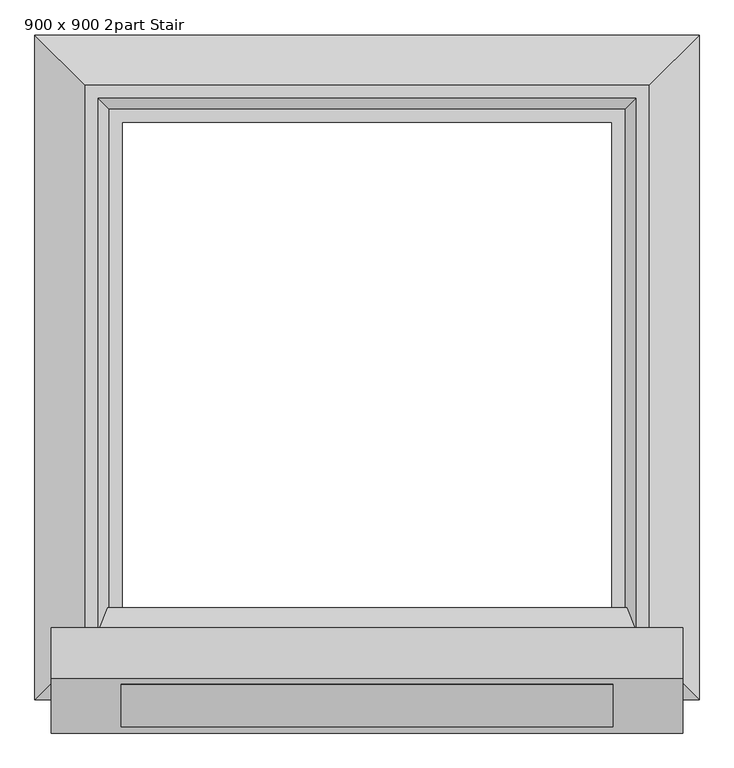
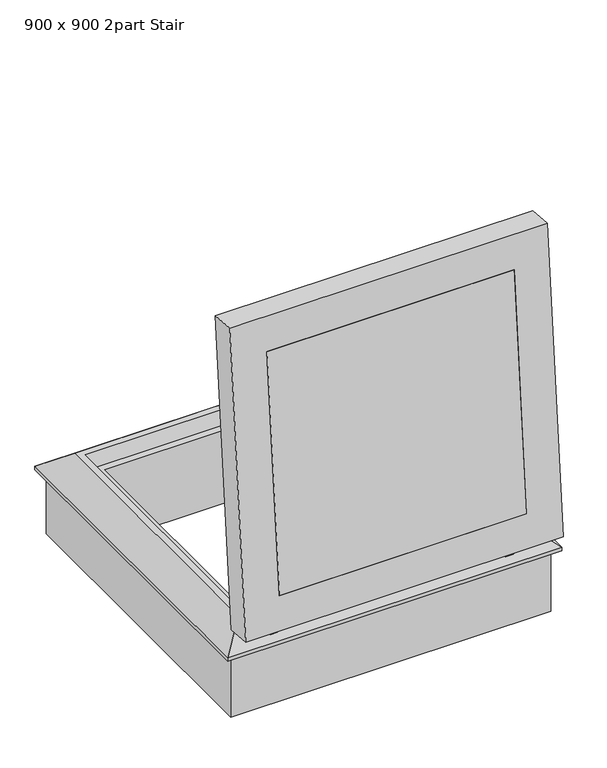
"""IFC4 building model written with IfcOpenShell, lengths in millimetres: proxy geometry, 2_Topaccess_dakluik_900x900_Staka : 900 x 900 2part Stair."""

from ifc_helpers import new_model, si_unit, point, frame, frame_2d, origin, place, context, project, spatial, polyline, circle_curve, trimmed, segment, composite_curve, outline, extrude, faceted_brep, source, transform, mapped, element, save


def proxy_900_x_900_2part_stair_d8f26226(model_context):
    return source(origin(), model_context, "Body", "SolidModel", [
        extrude(outline(composite_curve([segment(trimmed(circle_curve(frame_2d((-359.3648131, 286.8367213)), 7.5311041), [point((-365.2456174, 282.1320778))], [point((-366.7901944, 288.0941957))], False, "CARTESIAN"), True, "CONTINUOUS"), segment(polyline([(-366.7901944, 288.0941957), (-353.3118588, 332.1798449)]), True, "CONTINUOUS"), segment(trimmed(circle_curve(frame_2d((-349.4849442, 331.0098397)), 4.0017731), [point((-353.3118588, 332.1798449))], [point((-347.076617, 327.8138816))], False, "CARTESIAN"), True, "CONTINUOUS"), segment(trimmed(circle_curve(frame_2d((-344.5716793, 325.8942569)), 3.1558949), [point((-347.076617, 327.8138816))], [point((-344.7636324, 322.7442051))], True, "CARTESIAN"), True, "CONTINUOUS"), segment(polyline([(-344.7636324, 322.7442051), (-309.4270274, 309.7007017), (-356.9108622, 271.7136338), (-365.2456174, 282.1320778)]), True, "CONTINUOUS")], self_intersect=False)), frame((-1025.8118006, 0.0, 0.0), z_axis=(1.0, 0.0, 0.0), x_axis=(0.0, 1.0, 0.0)), (0.0, 0.0, 1.0), 26.9967765),
        extrude(outline(composite_curve([segment(trimmed(circle_curve(frame_2d((-359.3648131, 286.8367213)), 7.5311041), [point((-365.2456174, 282.1320778))], [point((-366.7901944, 288.0941957))], False, "CARTESIAN"), True, "CONTINUOUS"), segment(polyline([(-366.7901944, 288.0941957), (-353.3118588, 332.1798449)]), True, "CONTINUOUS"), segment(trimmed(circle_curve(frame_2d((-349.4849442, 331.0098397)), 4.0017731), [point((-353.3118588, 332.1798449))], [point((-347.076617, 327.8138816))], False, "CARTESIAN"), True, "CONTINUOUS"), segment(trimmed(circle_curve(frame_2d((-344.5716793, 325.8942569)), 3.1558949), [point((-347.076617, 327.8138816))], [point((-344.7636324, 322.7442051))], True, "CARTESIAN"), True, "CONTINUOUS"), segment(polyline([(-344.7636324, 322.7442051), (-309.4270274, 309.7007017), (-356.9108622, 271.7136338), (-365.2456174, 282.1320778)]), True, "CONTINUOUS")], self_intersect=False)), frame((-165.3386759, 0.0, 0.0), z_axis=(1.0, 0.0, 0.0), x_axis=(0.0, 1.0, 0.0)), (0.0, 0.0, 1.0), 30.3797811),
        faceted_brep([(-61.2697623, 753.4470955, 328.0), (30.7302377, 845.4470955, 254.4), (-1193.2697623, 845.4470955, 254.4), (-1101.2697623, 753.4470955, 328.0), (-105.2697623, 709.4470955, 282.0), (-85.7439208, 728.9729371, 328.0), (-1076.7956039, 728.9729371, 328.0), (-1057.2697623, 709.4470955, 282.0), (-131.2697623, 683.4470955, 0.0), (-131.2697623, 683.4470955, 282.0), (-1031.2697623, 683.4470955, 282.0), (-1031.2697623, 683.4470955, 0.0), (4.7302377, 819.4470955, 240.0), (4.7302377, 819.4470955, 0.0), (-1167.2697623, 819.4470955, 0.0), (-1167.2697623, 819.4470955, 240.0), (30.7302377, 845.4470955, 240.0), (-1193.2697623, 845.4470955, 240.0), (-1193.2697623, -378.5529045, 254.4), (-1101.2697623, -286.5529045, 328.0), (-1076.7956039, -262.078746, 328.0), (-1057.2697623, -242.5529045, 282.0), (-1031.2697623, -216.5529045, 282.0), (-1031.2697623, -216.5529045, 0.0), (-1167.2697623, -352.5529045, 0.0), (-1167.2697623, -352.5529045, 240.0), (-1193.2697623, -378.5529045, 240.0), (30.7302377, -378.5529045, 254.4), (-61.2697623, -286.5529045, 328.0), (-85.7439208, -262.078746, 328.0), (-105.2697623, -242.5529045, 282.0), (-131.2697623, -216.5529045, 282.0), (-131.2697623, -216.5529045, 0.0), (4.7302377, -352.5529045, 0.0), (4.7302377, -352.5529045, 240.0), (30.7302377, -378.5529045, 240.0)], [[[0, 1, 2, 3]], [[4, 5, 6, 7]], [[8, 9, 10, 11]], [[12, 13, 14, 15]], [[1, 16, 17, 2]], [[3, 2, 18, 19]], [[7, 6, 20, 21]], [[11, 10, 22, 23]], [[15, 14, 24, 25]], [[2, 17, 26, 18]], [[19, 18, 27, 28]], [[21, 20, 29, 30]], [[23, 22, 31, 32]], [[25, 24, 33, 34]], [[18, 26, 35, 27]], [[28, 27, 1, 0]], [[3, 19, 28, 0], [5, 29, 20, 6]], [[30, 29, 5, 4]], [[7, 21, 30, 4], [9, 31, 22, 10]], [[32, 31, 9, 8]], [[13, 33, 24, 14], [11, 23, 32, 8]], [[34, 33, 13, 12]], [[16, 35, 26, 17], [15, 25, 34, 12]], [[27, 35, 16, 1]]]),
        extrude(outline(polyline([(0.0, -905.7), (0.0, 0.0), (139.4, 0.0), (139.4, -905.7), (0.0, -905.7)])), frame((-1033.9725908, -428.8183427, 470.0146001), z_axis=(0.0, 0.08715574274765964, 0.9961946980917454), x_axis=(0.0, 0.9961946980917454, -0.08715574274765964)), (0.0, 0.0, 1.0), 901.0),
        faceted_brep([(-128.2725908, -211.4214776, 1355.4365126), (-128.2725908, -350.2910185, 1367.5860231), (-1033.9725908, -350.2910185, 1367.5860231), (-1033.9725908, -211.4214776, 1355.4365126), (-85.2725908, -253.8972146, 1402.3169111), (-102.8725908, -209.2077217, 1380.7398579), (-1059.3725908, -209.2077217, 1380.7398579), (-1076.9725908, -253.8972146, 1402.3169111), (0.7274092, -339.0479277, 1496.0951392), (0.7274092, -246.4018208, 1487.9896551), (-1162.9725908, -246.4018208, 1487.9896551), (-1162.9725908, -339.0479277, 1496.0951392), (-1033.9725908, -428.8183427, 470.0146001), (-1033.9725908, -289.9488018, 457.8650896), (-1059.3725908, -292.1625577, 432.5617443), (-1076.9725908, -339.9199327, 419.072744), (-1162.9725908, -347.4153266, 333.4), (-1162.9725908, -440.0614335, 341.5054841), (-128.2725908, -428.8183427, 470.0146001), (-128.2725908, -289.9488018, 457.8650896), (-102.8725908, -292.1625577, 432.5617443), (-85.2725908, -339.9199327, 419.072744), (0.7274092, -347.4153266, 333.4), (0.7274092, -440.0614335, 341.5054841)], [[[0, 1, 2, 3]], [[4, 5, 6, 7]], [[8, 9, 10, 11]], [[3, 2, 12, 13]], [[7, 6, 14, 15]], [[11, 10, 16, 17]], [[13, 12, 18, 19]], [[15, 14, 20, 21]], [[17, 16, 22, 23]], [[19, 18, 1, 0]], [[5, 20, 14, 6], [3, 13, 19, 0]], [[21, 20, 5, 4]], [[9, 22, 16, 10], [7, 15, 21, 4]], [[23, 22, 9, 8]], [[11, 17, 23, 8], [1, 18, 12, 2]]]),
    ])


if __name__ == "__main__":
    model = new_model("IFC4")
    model_context = context("Model", 3, world=origin())
    ifc_project = project(units=[si_unit("LENGTHUNIT", "METRE", prefix="MILLI")], contexts=[model_context])
    site = spatial("IfcSite", under=ifc_project)
    building = spatial("IfcBuilding", under=site)
    placement = place(None, origin())
    proxy_900_x_900_2part_stair_shape = proxy_900_x_900_2part_stair_d8f26226(model_context)
    element("IfcBuildingElementProxy", 1, Name="2_Topaccess_dakluik_900x900_Staka : 900 x 900 2part Stair", ObjectType="2_Topaccess_dakluik_900x900_Staka : 900 x 900 2part Stair", at=placement, inside=building, context=model_context, shape_type="MappedRepresentation", body=[
        mapped(proxy_900_x_900_2part_stair_shape, transform((0.0, 0.0, 0.0), x_axis=(1.0, 0.0, 0.0), y_axis=(0.0, 1.0, 0.0), z_axis=(0.0, 0.0, 1.0))),
    ])
    save(model, "model.ifc")
